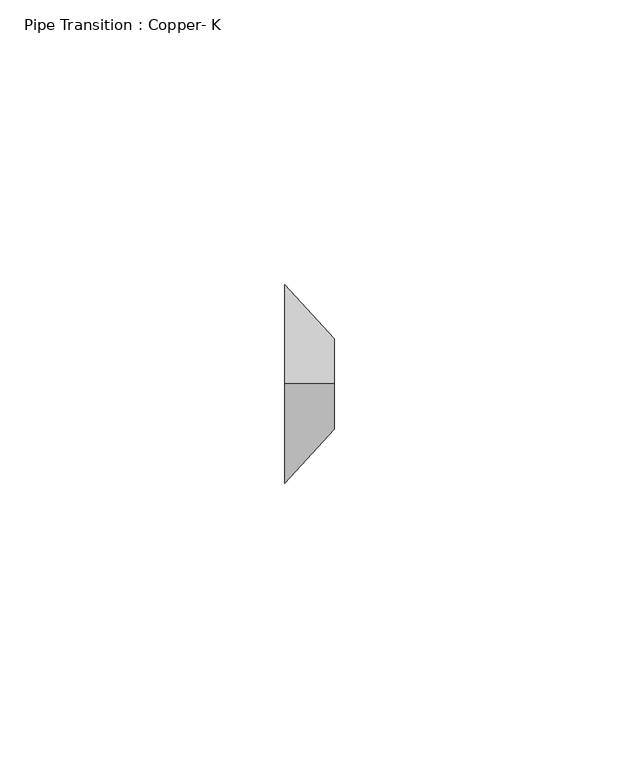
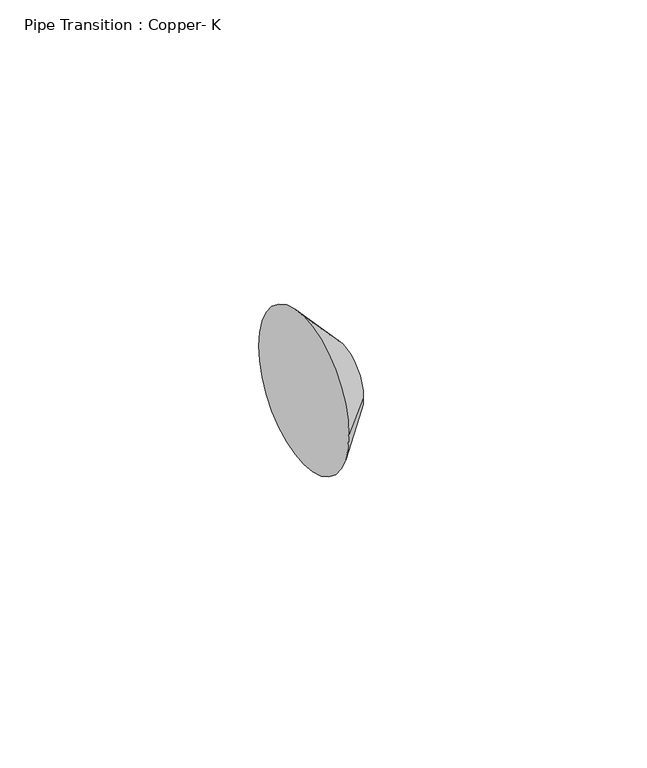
"""IFC4 building model written with IfcOpenShell, lengths in millimetres: pipe fitting geometry, Pipe Transition : Copper- K."""

from ifc_helpers import new_model, si_unit, frame, origin, place, context, project, spatial, polyline, circle_curve, source, transform, mapped, element, save
from ifc_brep_helpers import plane_surface, revolved_surface, advanced_brep


def pipe_transition_copper_k_7553a2c5(model_context):
    return source(origin(), model_context, "Body", "AdvancedBrep", [
        advanced_brep(
        [(8.73125, 0.0, 7.9375), (8.73125, -7.9375, 0.0), (8.73125, 0.0, -7.9375), (8.73125, 7.9375, 0.0), (0.0, 0.0, 17.4625), (0.0, 17.4625, 0.0), (0.0, 0.0, -17.4625), (0.0, -17.4625, 0.0)],
        [
            (0, 1, circle_curve(frame((8.73125, 0.0, 0.0), z_axis=(1.0, 0.0, 0.0), x_axis=(0.0, 0.0, 1.0)), 7.9375)),
            (1, 2, circle_curve(frame((8.73125, 0.0, 0.0), z_axis=(1.0, 0.0, 0.0), x_axis=(0.0, -1.0, 0.0)), 7.9375)),
            (2, 3, circle_curve(frame((8.73125, 0.0, 0.0), z_axis=(1.0, 0.0, 0.0), x_axis=(0.0, 0.0, -1.0)), 7.9375)),
            (3, 0, circle_curve(frame((8.73125, 0.0, 0.0), z_axis=(1.0, 0.0, 0.0), x_axis=(0.0, 1.0, 0.0)), 7.9375)),
            (4, 5, circle_curve(frame((0.0, 0.0, 0.0), z_axis=(-1.0, 0.0, 0.0), x_axis=(0.0, 1.0, 0.0)), 17.4625)),
            (5, 6, circle_curve(frame((0.0, 0.0, 0.0), z_axis=(-1.0, 0.0, 0.0), x_axis=(0.0, 0.0, -1.0)), 17.4625)),
            (6, 7, circle_curve(frame((0.0, 0.0, 0.0), z_axis=(-1.0, 0.0, 0.0), x_axis=(0.0, -1.0, 0.0)), 17.4625)),
            (7, 4, circle_curve(frame((0.0, 0.0, 0.0), z_axis=(-1.0, 0.0, 0.0), x_axis=(0.0, 0.0, 1.0)), 17.4625)),
            (7, 1),
            (0, 4),
            (6, 2),
            (5, 3),
        ],
        [
            plane_surface(frame((8.73125, 0.0, 0.0), z_axis=(1.0, 0.0, 0.0), x_axis=(0.0, -1.0, 0.0))),
            plane_surface(frame((0.0, 0.0, 0.0), z_axis=(-1.0, 0.0, 0.0), x_axis=(0.0, -1.0, 0.0))),
            revolved_surface(polyline([(8.73125, 0.0, 7.937500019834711), (0.0, 0.0, 17.4625)]), (16.0072917, 0.0, 0.0), (-1.0, 0.0, 0.0)),
            revolved_surface(polyline([(8.73125, -7.937500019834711, 0.0), (0.0, -17.4625, 0.0)]), (16.0072917, 0.0, 0.0), (-1.0, 0.0, 0.0)),
            revolved_surface(polyline([(8.73125, 0.0, -7.937500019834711), (0.0, 0.0, -17.4625)]), (16.0072917, 0.0, 0.0), (-1.0, 0.0, 0.0)),
            revolved_surface(polyline([(8.73125, 7.937500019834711, 0.0), (0.0, 17.4625, 0.0)]), (16.0072917, 0.0, 0.0), (-1.0, 0.0, 0.0)),
        ],
        [
            (0, [[1, 2, 3, 4]]),
            (1, [[5, 6, 7, 8]]),
            (2, [[-8, 9, -1, 10]]),
            (3, [[-7, 11, -2, -9]]),
            (4, [[-6, 12, -3, -11]]),
            (5, [[-5, -10, -4, -12]]),
        ],
    ),
        advanced_brep(
        [(8.73125, 0.0, 7.9375), (8.73125, -7.9375, 0.0), (8.73125, 0.0, -7.9375), (8.73125, 7.9375, 0.0), (0.0, 0.0, 17.4625), (0.0, 17.4625, 0.0), (0.0, 0.0, -17.4625), (0.0, -17.4625, 0.0)],
        [
            (0, 1, circle_curve(frame((8.73125, 0.0, 0.0), z_axis=(1.0, 0.0, 0.0), x_axis=(0.0, 0.0, 1.0)), 7.9375)),
            (1, 2, circle_curve(frame((8.73125, 0.0, 0.0), z_axis=(1.0, 0.0, 0.0), x_axis=(0.0, -1.0, 0.0)), 7.9375)),
            (2, 3, circle_curve(frame((8.73125, 0.0, 0.0), z_axis=(1.0, 0.0, -1.4977782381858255e-12), x_axis=(-1.497809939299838e-12, 0.0, -1.0)), 7.9375)),
            (3, 0, circle_curve(frame((8.73125, 0.0, 0.0), z_axis=(1.0, 0.0, 0.0), x_axis=(0.0, 1.0, 0.0)), 7.9375)),
            (4, 5, circle_curve(frame((0.0, 0.0, 0.0), z_axis=(-1.0, 0.0, 0.0), x_axis=(0.0, 1.0, 0.0)), 17.4625)),
            (5, 6, circle_curve(frame((0.0, 0.0, 0.0), z_axis=(-1.0, 0.0, 1.4977782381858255e-12), x_axis=(-1.497809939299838e-12, 0.0, -1.0)), 17.4625)),
            (6, 7, circle_curve(frame((0.0, 0.0, 0.0), z_axis=(-1.0, 0.0, 0.0), x_axis=(0.0, -1.0, 0.0)), 17.4625)),
            (7, 4, circle_curve(frame((0.0, 0.0, 0.0), z_axis=(-1.0, 0.0, 0.0), x_axis=(0.0, 0.0, 1.0)), 17.4625)),
            (7, 1),
            (0, 4),
            (6, 2),
            (5, 3),
        ],
        [
            plane_surface(frame((8.73125, 0.0, 0.0), z_axis=(1.0, 0.0, 0.0), x_axis=(0.0, -1.0, 0.0))),
            plane_surface(frame((0.0, 0.0, 0.0), z_axis=(-1.0, 0.0, 0.0), x_axis=(0.0, -1.0, 0.0))),
            revolved_surface(polyline([(8.73125, 0.0, 7.937500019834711), (0.0, 0.0, 17.4625)]), (16.0072917, 0.0, 0.0), (-1.0, 0.0, 0.0)),
            revolved_surface(polyline([(8.73125, -7.937500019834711, 0.0), (0.0, -17.4625, 0.0)]), (16.0072917, 0.0, 0.0), (-1.0, 0.0, 0.0)),
            revolved_surface(polyline([(8.73125, 0.0, -7.937500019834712), (-2.6155078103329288e-11, 0.0, -17.462500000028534)]), (16.0072917, 0.0, 0.0), (-1.0, 0.0, 1.4977782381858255e-12)),
            revolved_surface(polyline([(8.73125, 7.937500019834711, 0.0), (0.0, 17.4625, 0.0)]), (16.0072917, 0.0, 0.0), (-1.0, 0.0, 0.0)),
        ],
        [
            (0, [[1, 2, 3, 4]]),
            (1, [[5, 6, 7, 8]]),
            (2, [[-8, 9, -1, 10]]),
            (3, [[-7, 11, -2, -9]]),
            (4, [[-6, 12, -3, -11]]),
            (5, [[-5, -10, -4, -12]]),
        ],
    ),
    ])


if __name__ == "__main__":
    model = new_model("IFC4")
    model_context = context("Model", 3, world=origin())
    ifc_project = project(units=[si_unit("LENGTHUNIT", "METRE", prefix="MILLI")], contexts=[model_context])
    site = spatial("IfcSite", under=ifc_project)
    building = spatial("IfcBuilding", under=site)
    placement = place(None, origin())
    pipe_transition_copper_k_shape = pipe_transition_copper_k_7553a2c5(model_context)
    element("IfcPipeFitting", 1, ObjectType="Pipe Transition : Copper- K", at=placement, inside=building, context=model_context, shape_type="MappedRepresentation", body=[
        mapped(pipe_transition_copper_k_shape, transform((0.0, 0.0, 0.0), x_axis=(1.0, 0.0, 0.0), y_axis=(0.0, 1.0, 0.0), z_axis=(0.0, 0.0, 1.0))),
    ])
    save(model, "model.ifc")
